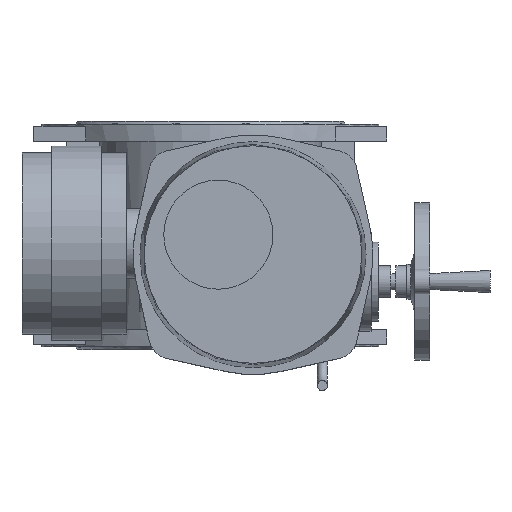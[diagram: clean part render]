
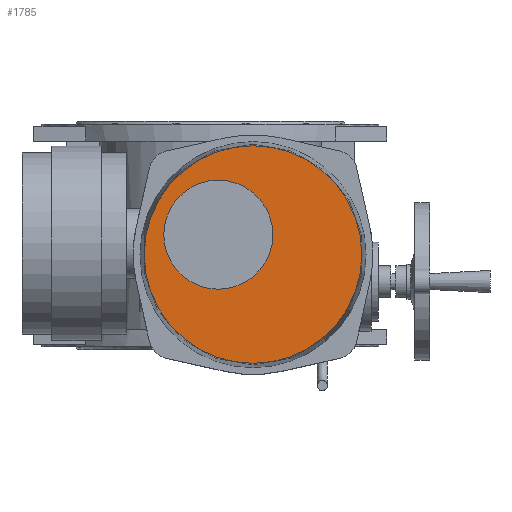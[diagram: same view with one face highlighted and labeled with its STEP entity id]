
A CAD part, top view. The second image highlights one B-rep face of the part: STEP entity #1785.
In plain terms, the highlighted planar face has unit normal (0, 0, 1).
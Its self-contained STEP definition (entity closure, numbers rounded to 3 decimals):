
#1785=ADVANCED_FACE('',(#3812,#3814),#3816,.T.);
#3812=FACE_BOUND('',#3813,.T.);
#3813=EDGE_LOOP('',(#5244));
#3814=FACE_BOUND('',#3815,.T.);
#3815=EDGE_LOOP('',(#5245));
#3816=PLANE('',#3817);
#3817=AXIS2_PLACEMENT_3D('',#3818,#3819,#3820);
#3818=CARTESIAN_POINT('',(43.,-20.,484.));
#3819=DIRECTION('',(0.,0.,1.));
#3820=DIRECTION('',(0.,1.,0.));
#5244=ORIENTED_EDGE('',*,*,#5913,.T.);
#5245=ORIENTED_EDGE('',*,*,#5945,.F.);
#5913=EDGE_CURVE('',#6901,#6901,#6902,.T.);
#5945=EDGE_CURVE('',#6941,#6941,#6942,.T.);
#6901=VERTEX_POINT('',#11921);
#6902=CIRCLE('',#11922,109.703);
#6941=VERTEX_POINT('',#12057);
#6942=CIRCLE('',#12058,55.);
#11921=CARTESIAN_POINT('',(43.,89.703,484.));
#11922=AXIS2_PLACEMENT_3D('',#11923,#11924,#11925);
#11923=CARTESIAN_POINT('',(43.,-20.,484.));
#11924=DIRECTION('',(0.,0.,1.));
#11925=DIRECTION('',(0.,1.,0.));
#12057=CARTESIAN_POINT('',(8.,55.,484.));
#12058=AXIS2_PLACEMENT_3D('',#12059,#12060,#12061);
#12059=CARTESIAN_POINT('',(8.,0.,484.));
#12060=DIRECTION('',(0.,0.,1.));
#12061=DIRECTION('',(0.,1.,0.));
